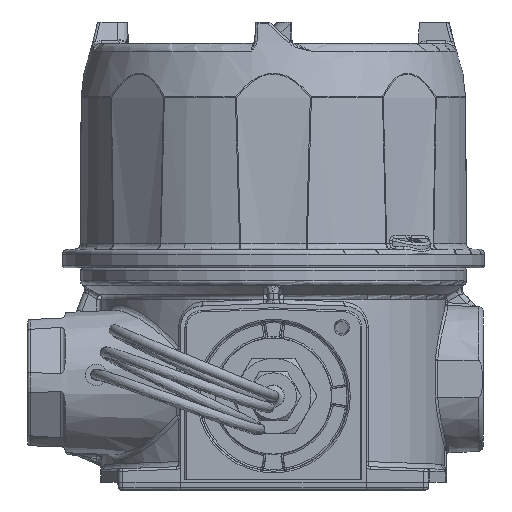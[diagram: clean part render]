
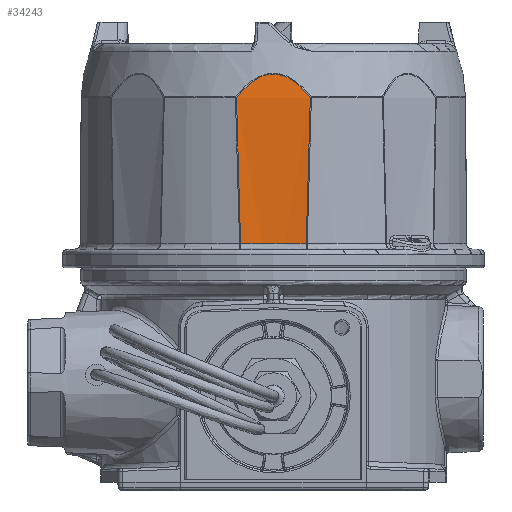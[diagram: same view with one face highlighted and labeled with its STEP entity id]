
A CAD part, front view. The second image highlights one B-rep face of the part: STEP entity #34243.
In plain terms, the highlighted conical face has half-angle 0.5 degrees and reference radius 83.16 mm.
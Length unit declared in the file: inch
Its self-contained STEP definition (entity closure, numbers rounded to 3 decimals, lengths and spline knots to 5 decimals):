
#2275 = CARTESIAN_POINT ( 'NONE',  ( 0.4145, -2.24011, 2.9062 ) ) ;
#3671 = B_SPLINE_CURVE_WITH_KNOTS ( 'NONE', 3,
 ( #70672, #31534, #2275, #24850 ),
 .UNSPECIFIED., .F., .F.,
 ( 4, 4 ),
 ( 0., 0.04314 ),
 .UNSPECIFIED. ) ;
#4059 = CARTESIAN_POINT ( 'NONE',  ( 0.42941, -2.23711, 3.47216 ) ) ;
#4142 = ORIENTED_EDGE ( 'NONE', *, *, #9920, .T. ) ;
#4793 = CARTESIAN_POINT ( 'NONE',  ( 0.42941, -2.23711, 3.47216 ) ) ;
#5158 = CARTESIAN_POINT ( 'NONE',  ( -0.20819, -2.21352, 3.68227 ) ) ;
#5523 = CARTESIAN_POINT ( 'NONE',  ( 0.10761, -2.20823, 3.7301 ) ) ;
#5771 = DIRECTION ( 'NONE',  ( 0., 1., 0. ) ) ;
#7453 = CARTESIAN_POINT ( 'NONE',  ( -0.38207, -2.24611, 1.77405 ) ) ;
#7926 = DIRECTION ( 'NONE',  ( 0., 0., 1. ) ) ;
#9920 = EDGE_CURVE ( 'NONE', #65481, #25286, #47573, .T. ) ;
#10347 = CARTESIAN_POINT ( 'NONE',  ( 0.27897, -2.21911, 3.63197 ) ) ;
#11326 = ORIENTED_EDGE ( 'NONE', *, *, #14755, .T. ) ;
#13117 = DIRECTION ( 'NONE',  ( 0., 1., 0. ) ) ;
#13733 = CARTESIAN_POINT ( 'NONE',  ( -0.38206, -2.24611, 1.77375 ) ) ;
#14755 = EDGE_CURVE ( 'NONE', #45122, #65481, #3671, .T. ) ;
#15543 = CARTESIAN_POINT ( 'NONE',  ( -0.17008, -2.21112, 3.7039 ) ) ;
#16258 = CARTESIAN_POINT ( 'NONE',  ( 0.05421, -2.20685, 3.74265 ) ) ;
#19124 = CARTESIAN_POINT ( 'NONE',  ( 0.38208, -2.2461, 1.77434 ) ) ;
#20729 = CARTESIAN_POINT ( 'NONE',  ( 0.02129, -2.20643, 3.74641 ) ) ;
#21156 = CARTESIAN_POINT ( 'NONE',  ( 0.38206, -2.24611, 1.77375 ) ) ;
#22923 = CARTESIAN_POINT ( 'NONE',  ( -0.40219, -2.2332, 3.50658 ) ) ;
#23053 = ORIENTED_EDGE ( 'NONE', *, *, #72774, .T. ) ;
#23582 = CARTESIAN_POINT ( 'NONE',  ( -0.42941, -2.23711, 3.47216 ) ) ;
#23685 = CARTESIAN_POINT ( 'NONE',  ( -0.42941, -2.23711, 3.47216 ) ) ;
#23803 = ORIENTED_EDGE ( 'NONE', *, *, #40864, .T. ) ;
#24850 = CARTESIAN_POINT ( 'NONE',  ( 0.42941, -2.23711, 3.47216 ) ) ;
#25286 = VERTEX_POINT ( 'NONE', #23582 ) ;
#28021 = CARTESIAN_POINT ( 'NONE',  ( 0., -5.47727, 1.77345 ) ) ;
#29014 = VERTEX_POINT ( 'NONE', #54701 ) ;
#30423 = EDGE_CURVE ( 'NONE', #29014, #51754, #47041, .T. ) ;
#31534 = CARTESIAN_POINT ( 'NONE',  ( 0.39883, -2.24311, 2.34026 ) ) ;
#31745 = EDGE_LOOP ( 'NONE', ( #53175, #23053, #11326, #4142, #23803, #56555 ) ) ;
#32246 = CARTESIAN_POINT ( 'NONE',  ( -0.28008, -2.21921, 3.63108 ) ) ;
#32961 = CARTESIAN_POINT ( 'NONE',  ( 0.20759, -2.21348, 3.68265 ) ) ;
#33343 = CARTESIAN_POINT ( 'NONE',  ( -0.15039, -2.21007, 3.71348 ) ) ;
#34243 = ADVANCED_FACE ( 'NONE', ( #58613 ), #61267, .F. ) ;
#35375 = CARTESIAN_POINT ( 'NONE',  ( 0., -5.47727, 4.103 ) ) ;
#36603 = EDGE_CURVE ( 'NONE', #51754, #50391, #52945, .T. ) ;
#37801 = CARTESIAN_POINT ( 'NONE',  ( 0.08653, -2.20755, 3.73632 ) ) ;
#38168 = CARTESIAN_POINT ( 'NONE',  ( -0.31254, -2.22247, 3.60188 ) ) ;
#38856 = B_SPLINE_CURVE_WITH_KNOTS ( 'NONE', 3,
 ( #44846, #21156, #61805, #56290 ),
 .UNSPECIFIED., .F., .F.,
 ( 4, 4 ),
 ( 0., 0.00002 ),
 .UNSPECIFIED. ) ;
#38900 = CARTESIAN_POINT ( 'NONE',  ( 0.04332, -2.20667, 3.74426 ) ) ;
#40294 = CARTESIAN_POINT ( 'NONE',  ( -0.38206, -2.24611, 1.77345 ) ) ;
#40864 = EDGE_CURVE ( 'NONE', #25286, #29014, #51042, .T. ) ;
#44418 = CARTESIAN_POINT ( 'NONE',  ( 0.16907, -2.21107, 3.70443 ) ) ;
#44846 = CARTESIAN_POINT ( 'NONE',  ( 0.38206, -2.24611, 1.77345 ) ) ;
#45122 = VERTEX_POINT ( 'NONE', #19124 ) ;
#46282 = CARTESIAN_POINT ( 'NONE',  ( -0.39883, -2.24311, 2.34026 ) ) ;
#47041 = B_SPLINE_CURVE_WITH_KNOTS ( 'NONE', 3,
 ( #68476, #7453, #13733, #64046 ),
 .UNSPECIFIED., .F., .F.,
 ( 4, 4 ),
 ( 0., 0.00002 ),
 .UNSPECIFIED. ) ;
#47573 = B_SPLINE_CURVE_WITH_KNOTS ( 'NONE', 3,
 ( #4793, #61012, #67294, #55877, #10347, #49236, #32961, #44418, #66918, #5523, #37801, #16258, #38900, #20729, #65829, #50331, #71743, #61383, #66192, #33343, #15543, #5158, #60289, #32246, #38168, #60645, #22923, #67660 ),
 .UNSPECIFIED., .F., .F.,
 ( 4, 2, 2, 2, 2, 2, 2, 2, 2, 2, 2, 2, 2, 4 ),
 ( 0., 0.00336, 0.00673, 0.00841, 0.01009, 0.01177, 0.01261, 0.01345, 0.01514, 0.01682, 0.0185, 0.02018, 0.02355, 0.02691 ),
 .UNSPECIFIED. ) ;
#49236 = CARTESIAN_POINT ( 'NONE',  ( 0.22595, -2.21481, 3.67063 ) ) ;
#50331 = CARTESIAN_POINT ( 'NONE',  ( -0.02303, -2.20639, 3.74685 ) ) ;
#50391 = VERTEX_POINT ( 'NONE', #66700 ) ;
#51042 = B_SPLINE_CURVE_WITH_KNOTS ( 'NONE', 3,
 ( #23685, #63612, #46282, #57338 ),
 .UNSPECIFIED., .F., .F.,
 ( 4, 4 ),
 ( 0., 0.04314 ),
 .UNSPECIFIED. ) ;
#51754 = VERTEX_POINT ( 'NONE', #40294 ) ;
#52945 = CIRCLE ( 'NONE', #62349, 3.25367 ) ;
#53175 = ORIENTED_EDGE ( 'NONE', *, *, #36603, .T. ) ;
#54701 = CARTESIAN_POINT ( 'NONE',  ( -0.38208, -2.2461, 1.77434 ) ) ;
#55877 = CARTESIAN_POINT ( 'NONE',  ( 0.31159, -2.22237, 3.60279 ) ) ;
#56290 = CARTESIAN_POINT ( 'NONE',  ( 0.38208, -2.2461, 1.77434 ) ) ;
#56555 = ORIENTED_EDGE ( 'NONE', *, *, #30423, .T. ) ;
#57338 = CARTESIAN_POINT ( 'NONE',  ( -0.38208, -2.2461, 1.77434 ) ) ;
#58613 = FACE_OUTER_BOUND ( 'NONE', #31745, .T. ) ;
#60289 = CARTESIAN_POINT ( 'NONE',  ( -0.22665, -2.21486, 3.67016 ) ) ;
#60645 = CARTESIAN_POINT ( 'NONE',  ( -0.37362, -2.22946, 3.53965 ) ) ;
#61012 = CARTESIAN_POINT ( 'NONE',  ( 0.40211, -2.23319, 3.50668 ) ) ;
#61267 = CONICAL_SURFACE ( 'NONE', #70711, 3.274, 0.009 ) ;
#61383 = CARTESIAN_POINT ( 'NONE',  ( -0.08794, -2.20759, 3.73595 ) ) ;
#61805 = CARTESIAN_POINT ( 'NONE',  ( 0.38207, -2.24611, 1.77405 ) ) ;
#62349 = AXIS2_PLACEMENT_3D ( 'NONE', #28021, #67540, #5771 ) ;
#63612 = CARTESIAN_POINT ( 'NONE',  ( -0.4145, -2.24011, 2.9062 ) ) ;
#64046 = CARTESIAN_POINT ( 'NONE',  ( -0.38206, -2.24611, 1.77345 ) ) ;
#65481 = VERTEX_POINT ( 'NONE', #4059 ) ;
#65829 = CARTESIAN_POINT ( 'NONE',  ( 0.01011, -2.20638, 3.74694 ) ) ;
#66192 = CARTESIAN_POINT ( 'NONE',  ( -0.10939, -2.2083, 3.72951 ) ) ;
#66700 = CARTESIAN_POINT ( 'NONE',  ( 0.38206, -2.24611, 1.77345 ) ) ;
#66918 = CARTESIAN_POINT ( 'NONE',  ( 0.14896, -2.20999, 3.71413 ) ) ;
#67294 = CARTESIAN_POINT ( 'NONE',  ( 0.37332, -2.22942, 3.54001 ) ) ;
#67540 = DIRECTION ( 'NONE',  ( 0., 0., -1. ) ) ;
#67660 = CARTESIAN_POINT ( 'NONE',  ( -0.42941, -2.23711, 3.47216 ) ) ;
#68476 = CARTESIAN_POINT ( 'NONE',  ( -0.38208, -2.2461, 1.77434 ) ) ;
#70672 = CARTESIAN_POINT ( 'NONE',  ( 0.38208, -2.2461, 1.77434 ) ) ;
#70711 = AXIS2_PLACEMENT_3D ( 'NONE', #35375, #7926, #13117 ) ;
#71743 = CARTESIAN_POINT ( 'NONE',  ( -0.04485, -2.20664, 3.74458 ) ) ;
#72774 = EDGE_CURVE ( 'NONE', #50391, #45122, #38856, .T. ) ;
